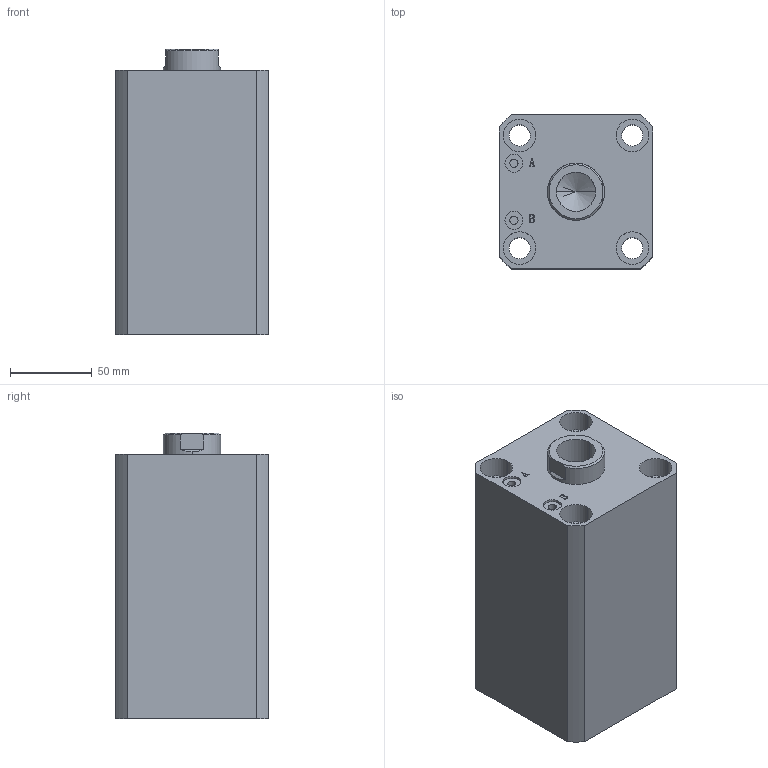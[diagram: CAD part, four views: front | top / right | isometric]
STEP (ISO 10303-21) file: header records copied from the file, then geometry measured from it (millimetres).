
FILE_DESCRIPTION (( 'STEP AP203' ), '1' );
FILE_NAME ('HTB-SDMA63-95N.STEP', '2019-10-08T01:16:23', ( '微软用户' ), ( '微软中国' ), 'SwSTEP 2.0', 'SolidWorks 2012', '' );
FILE_SCHEMA (( 'CONFIG_CONTROL_DESIGN' ));
Length unit declared in the file: millimetre
Products named in the file (3): HTB-SDMA63-95N; HTB-SDMA63-95N活塞杆; HTB-SDMA63-95掛极
Assembly tree (2 placements, depth 2):
  HTB-SDMA63-95N
    HTB-SDMA63-95掛极
    HTB-SDMA63-95N活塞杆
Bounding box: 94 x 94 x 175 mm (x, y, z)
Volume: 1098191.3 mm3; surface area: 162286.8 mm2
Topology: 2 solids, 2 shells, 137 faces, 331 edges, 217 vertices
Faces by surface type: plane 65, cylinder 46, bspline 16, torus 6, cone 4
Entity records: 5070 total; most frequent: CARTESIAN_POINT 1576, ORIENTED_EDGE 658, DIRECTION 647, EDGE_CURVE 329, AXIS2_PLACEMENT_3D 232, VERTEX_POINT 217, LINE 183, VECTOR 183
